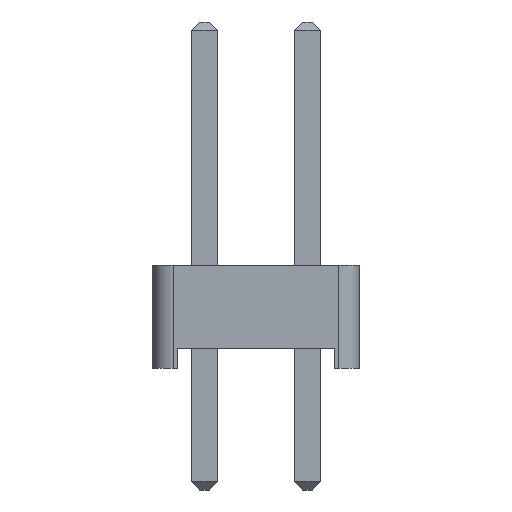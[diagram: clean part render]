
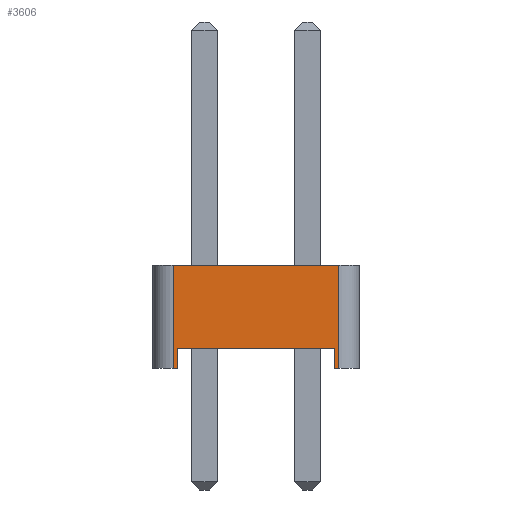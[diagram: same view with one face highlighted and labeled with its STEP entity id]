
A CAD part, left-side view. The second image highlights one B-rep face of the part: STEP entity #3606.
In plain terms, the highlighted planar face has unit normal (-1, 0, 0).
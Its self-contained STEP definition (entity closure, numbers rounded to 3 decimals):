
#3346 = VERTEX_POINT('',#3347);
#3347 = CARTESIAN_POINT('',(-1.27,2.04,0.));
#3355 = PLANE('',#3356);
#3356 = AXIS2_PLACEMENT_3D('',#3357,#3358,#3359);
#3357 = CARTESIAN_POINT('',(0.,0.,0.));
#3358 = DIRECTION('',(-0.,-0.,-1.));
#3359 = DIRECTION('',(-1.,0.,0.));
#3371 = CYLINDRICAL_SURFACE('',#3372,0.5);
#3372 = AXIS2_PLACEMENT_3D('',#3373,#3374,#3375);
#3373 = CARTESIAN_POINT('',(-0.77,2.04,0.));
#3374 = DIRECTION('',(0.,0.,1.));
#3375 = DIRECTION('',(0.,1.,0.));
#3473 = VERTEX_POINT('',#3474);
#3474 = CARTESIAN_POINT('',(-1.27,1.94,0.));
#3488 = PLANE('',#3489);
#3489 = AXIS2_PLACEMENT_3D('',#3490,#3491,#3492);
#3490 = CARTESIAN_POINT('',(1.27,1.94,0.));
#3491 = DIRECTION('',(0.,-1.,0.));
#3492 = DIRECTION('',(-1.,0.,0.));
#3500 = EDGE_CURVE('',#3473,#3346,#3501,.T.);
#3501 = SURFACE_CURVE('',#3502,(#3506,#3513),.PCURVE_S1.);
#3502 = LINE('',#3503,#3504);
#3503 = CARTESIAN_POINT('',(-1.27,-2.54,0.));
#3504 = VECTOR('',#3505,1.);
#3505 = DIRECTION('',(0.,1.,0.));
#3506 = PCURVE('',#3355,#3507);
#3507 = DEFINITIONAL_REPRESENTATION('',(#3508),#3512);
#3508 = LINE('',#3509,#3510);
#3509 = CARTESIAN_POINT('',(1.27,-2.54));
#3510 = VECTOR('',#3511,1.);
#3511 = DIRECTION('',(0.,1.));
#3512 = ( GEOMETRIC_REPRESENTATION_CONTEXT(2) 
PARAMETRIC_REPRESENTATION_CONTEXT() REPRESENTATION_CONTEXT('2D SPACE',''
  ) );
#3513 = PCURVE('',#3514,#3519);
#3514 = PLANE('',#3515);
#3515 = AXIS2_PLACEMENT_3D('',#3516,#3517,#3518);
#3516 = CARTESIAN_POINT('',(-1.27,-2.54,0.));
#3517 = DIRECTION('',(-1.,0.,0.));
#3518 = DIRECTION('',(0.,1.,0.));
#3519 = DEFINITIONAL_REPRESENTATION('',(#3520),#3524);
#3520 = LINE('',#3521,#3522);
#3521 = CARTESIAN_POINT('',(0.,0.));
#3522 = VECTOR('',#3523,1.);
#3523 = DIRECTION('',(1.,0.));
#3524 = ( GEOMETRIC_REPRESENTATION_CONTEXT(2) 
PARAMETRIC_REPRESENTATION_CONTEXT() REPRESENTATION_CONTEXT('2D SPACE',''
  ) );
#3530 = EDGE_CURVE('',#3346,#3531,#3533,.T.);
#3531 = VERTEX_POINT('',#3532);
#3532 = CARTESIAN_POINT('',(-1.27,2.04,2.54));
#3533 = SURFACE_CURVE('',#3534,(#3538,#3545),.PCURVE_S1.);
#3534 = LINE('',#3535,#3536);
#3535 = CARTESIAN_POINT('',(-1.27,2.04,0.));
#3536 = VECTOR('',#3537,1.);
#3537 = DIRECTION('',(0.,0.,1.));
#3538 = PCURVE('',#3371,#3539);
#3539 = DEFINITIONAL_REPRESENTATION('',(#3540),#3544);
#3540 = LINE('',#3541,#3542);
#3541 = CARTESIAN_POINT('',(1.571,0.));
#3542 = VECTOR('',#3543,1.);
#3543 = DIRECTION('',(0.,1.));
#3544 = ( GEOMETRIC_REPRESENTATION_CONTEXT(2) 
PARAMETRIC_REPRESENTATION_CONTEXT() REPRESENTATION_CONTEXT('2D SPACE',''
  ) );
#3545 = PCURVE('',#3514,#3546);
#3546 = DEFINITIONAL_REPRESENTATION('',(#3547),#3551);
#3547 = LINE('',#3548,#3549);
#3548 = CARTESIAN_POINT('',(4.58,0.));
#3549 = VECTOR('',#3550,1.);
#3550 = DIRECTION('',(0.,-1.));
#3551 = ( GEOMETRIC_REPRESENTATION_CONTEXT(2) 
PARAMETRIC_REPRESENTATION_CONTEXT() REPRESENTATION_CONTEXT('2D SPACE',''
  ) );
#3570 = PLANE('',#3571);
#3571 = AXIS2_PLACEMENT_3D('',#3572,#3573,#3574);
#3572 = CARTESIAN_POINT('',(0.,0.,2.54));
#3573 = DIRECTION('',(-0.,-0.,-1.));
#3574 = DIRECTION('',(-1.,0.,0.));
#3606 = ADVANCED_FACE('',(#3607),#3514,.T.);
#3607 = FACE_BOUND('',#3608,.T.);
#3608 = EDGE_LOOP('',(#3609,#3639,#3667,#3688,#3689,#3690,#3713,#3741));
#3609 = ORIENTED_EDGE('',*,*,#3610,.F.);
#3610 = EDGE_CURVE('',#3611,#3613,#3615,.T.);
#3611 = VERTEX_POINT('',#3612);
#3612 = CARTESIAN_POINT('',(-1.27,-2.04,0.));
#3613 = VERTEX_POINT('',#3614);
#3614 = CARTESIAN_POINT('',(-1.27,-1.94,0.));
#3615 = SURFACE_CURVE('',#3616,(#3620,#3627),.PCURVE_S1.);
#3616 = LINE('',#3617,#3618);
#3617 = CARTESIAN_POINT('',(-1.27,-2.54,0.));
#3618 = VECTOR('',#3619,1.);
#3619 = DIRECTION('',(0.,1.,0.));
#3620 = PCURVE('',#3514,#3621);
#3621 = DEFINITIONAL_REPRESENTATION('',(#3622),#3626);
#3622 = LINE('',#3623,#3624);
#3623 = CARTESIAN_POINT('',(0.,0.));
#3624 = VECTOR('',#3625,1.);
#3625 = DIRECTION('',(1.,0.));
#3626 = ( GEOMETRIC_REPRESENTATION_CONTEXT(2) 
PARAMETRIC_REPRESENTATION_CONTEXT() REPRESENTATION_CONTEXT('2D SPACE',''
  ) );
#3627 = PCURVE('',#3628,#3633);
#3628 = PLANE('',#3629);
#3629 = AXIS2_PLACEMENT_3D('',#3630,#3631,#3632);
#3630 = CARTESIAN_POINT('',(0.,0.,0.));
#3631 = DIRECTION('',(-0.,-0.,-1.));
#3632 = DIRECTION('',(-1.,0.,0.));
#3633 = DEFINITIONAL_REPRESENTATION('',(#3634),#3638);
#3634 = LINE('',#3635,#3636);
#3635 = CARTESIAN_POINT('',(1.27,-2.54));
#3636 = VECTOR('',#3637,1.);
#3637 = DIRECTION('',(0.,1.));
#3638 = ( GEOMETRIC_REPRESENTATION_CONTEXT(2) 
PARAMETRIC_REPRESENTATION_CONTEXT() REPRESENTATION_CONTEXT('2D SPACE',''
  ) );
#3639 = ORIENTED_EDGE('',*,*,#3640,.T.);
#3640 = EDGE_CURVE('',#3611,#3641,#3643,.T.);
#3641 = VERTEX_POINT('',#3642);
#3642 = CARTESIAN_POINT('',(-1.27,-2.04,2.54));
#3643 = SURFACE_CURVE('',#3644,(#3648,#3655),.PCURVE_S1.);
#3644 = LINE('',#3645,#3646);
#3645 = CARTESIAN_POINT('',(-1.27,-2.04,0.));
#3646 = VECTOR('',#3647,1.);
#3647 = DIRECTION('',(0.,0.,1.));
#3648 = PCURVE('',#3514,#3649);
#3649 = DEFINITIONAL_REPRESENTATION('',(#3650),#3654);
#3650 = LINE('',#3651,#3652);
#3651 = CARTESIAN_POINT('',(0.5,0.));
#3652 = VECTOR('',#3653,1.);
#3653 = DIRECTION('',(0.,-1.));
#3654 = ( GEOMETRIC_REPRESENTATION_CONTEXT(2) 
PARAMETRIC_REPRESENTATION_CONTEXT() REPRESENTATION_CONTEXT('2D SPACE',''
  ) );
#3655 = PCURVE('',#3656,#3661);
#3656 = CYLINDRICAL_SURFACE('',#3657,0.5);
#3657 = AXIS2_PLACEMENT_3D('',#3658,#3659,#3660);
#3658 = CARTESIAN_POINT('',(-0.77,-2.04,0.));
#3659 = DIRECTION('',(0.,0.,1.));
#3660 = DIRECTION('',(0.,-1.,0.));
#3661 = DEFINITIONAL_REPRESENTATION('',(#3662),#3666);
#3662 = LINE('',#3663,#3664);
#3663 = CARTESIAN_POINT('',(-1.571,0.));
#3664 = VECTOR('',#3665,1.);
#3665 = DIRECTION('',(-0.,1.));
#3666 = ( GEOMETRIC_REPRESENTATION_CONTEXT(2) 
PARAMETRIC_REPRESENTATION_CONTEXT() REPRESENTATION_CONTEXT('2D SPACE',''
  ) );
#3667 = ORIENTED_EDGE('',*,*,#3668,.T.);
#3668 = EDGE_CURVE('',#3641,#3531,#3669,.T.);
#3669 = SURFACE_CURVE('',#3670,(#3674,#3681),.PCURVE_S1.);
#3670 = LINE('',#3671,#3672);
#3671 = CARTESIAN_POINT('',(-1.27,-2.54,2.54));
#3672 = VECTOR('',#3673,1.);
#3673 = DIRECTION('',(0.,1.,0.));
#3674 = PCURVE('',#3514,#3675);
#3675 = DEFINITIONAL_REPRESENTATION('',(#3676),#3680);
#3676 = LINE('',#3677,#3678);
#3677 = CARTESIAN_POINT('',(0.,-2.54));
#3678 = VECTOR('',#3679,1.);
#3679 = DIRECTION('',(1.,0.));
#3680 = ( GEOMETRIC_REPRESENTATION_CONTEXT(2) 
PARAMETRIC_REPRESENTATION_CONTEXT() REPRESENTATION_CONTEXT('2D SPACE',''
  ) );
#3681 = PCURVE('',#3570,#3682);
#3682 = DEFINITIONAL_REPRESENTATION('',(#3683),#3687);
#3683 = LINE('',#3684,#3685);
#3684 = CARTESIAN_POINT('',(1.27,-2.54));
#3685 = VECTOR('',#3686,1.);
#3686 = DIRECTION('',(0.,1.));
#3687 = ( GEOMETRIC_REPRESENTATION_CONTEXT(2) 
PARAMETRIC_REPRESENTATION_CONTEXT() REPRESENTATION_CONTEXT('2D SPACE',''
  ) );
#3688 = ORIENTED_EDGE('',*,*,#3530,.F.);
#3689 = ORIENTED_EDGE('',*,*,#3500,.F.);
#3690 = ORIENTED_EDGE('',*,*,#3691,.T.);
#3691 = EDGE_CURVE('',#3473,#3692,#3694,.T.);
#3692 = VERTEX_POINT('',#3693);
#3693 = CARTESIAN_POINT('',(-1.27,1.94,0.5));
#3694 = SURFACE_CURVE('',#3695,(#3699,#3706),.PCURVE_S1.);
#3695 = LINE('',#3696,#3697);
#3696 = CARTESIAN_POINT('',(-1.27,1.94,0.));
#3697 = VECTOR('',#3698,1.);
#3698 = DIRECTION('',(0.,0.,1.));
#3699 = PCURVE('',#3514,#3700);
#3700 = DEFINITIONAL_REPRESENTATION('',(#3701),#3705);
#3701 = LINE('',#3702,#3703);
#3702 = CARTESIAN_POINT('',(4.48,0.));
#3703 = VECTOR('',#3704,1.);
#3704 = DIRECTION('',(0.,-1.));
#3705 = ( GEOMETRIC_REPRESENTATION_CONTEXT(2) 
PARAMETRIC_REPRESENTATION_CONTEXT() REPRESENTATION_CONTEXT('2D SPACE',''
  ) );
#3706 = PCURVE('',#3488,#3707);
#3707 = DEFINITIONAL_REPRESENTATION('',(#3708),#3712);
#3708 = LINE('',#3709,#3710);
#3709 = CARTESIAN_POINT('',(2.54,0.));
#3710 = VECTOR('',#3711,1.);
#3711 = DIRECTION('',(0.,-1.));
#3712 = ( GEOMETRIC_REPRESENTATION_CONTEXT(2) 
PARAMETRIC_REPRESENTATION_CONTEXT() REPRESENTATION_CONTEXT('2D SPACE',''
  ) );
#3713 = ORIENTED_EDGE('',*,*,#3714,.T.);
#3714 = EDGE_CURVE('',#3692,#3715,#3717,.T.);
#3715 = VERTEX_POINT('',#3716);
#3716 = CARTESIAN_POINT('',(-1.27,-1.94,0.5));
#3717 = SURFACE_CURVE('',#3718,(#3722,#3729),.PCURVE_S1.);
#3718 = LINE('',#3719,#3720);
#3719 = CARTESIAN_POINT('',(-1.27,1.94,0.5));
#3720 = VECTOR('',#3721,1.);
#3721 = DIRECTION('',(0.,-1.,0.));
#3722 = PCURVE('',#3514,#3723);
#3723 = DEFINITIONAL_REPRESENTATION('',(#3724),#3728);
#3724 = LINE('',#3725,#3726);
#3725 = CARTESIAN_POINT('',(4.48,-0.5));
#3726 = VECTOR('',#3727,1.);
#3727 = DIRECTION('',(-1.,0.));
#3728 = ( GEOMETRIC_REPRESENTATION_CONTEXT(2) 
PARAMETRIC_REPRESENTATION_CONTEXT() REPRESENTATION_CONTEXT('2D SPACE',''
  ) );
#3729 = PCURVE('',#3730,#3735);
#3730 = PLANE('',#3731);
#3731 = AXIS2_PLACEMENT_3D('',#3732,#3733,#3734);
#3732 = CARTESIAN_POINT('',(0.,0.,0.5));
#3733 = DIRECTION('',(0.,0.,1.));
#3734 = DIRECTION('',(1.,0.,0.));
#3735 = DEFINITIONAL_REPRESENTATION('',(#3736),#3740);
#3736 = LINE('',#3737,#3738);
#3737 = CARTESIAN_POINT('',(-1.27,1.94));
#3738 = VECTOR('',#3739,1.);
#3739 = DIRECTION('',(0.,-1.));
#3740 = ( GEOMETRIC_REPRESENTATION_CONTEXT(2) 
PARAMETRIC_REPRESENTATION_CONTEXT() REPRESENTATION_CONTEXT('2D SPACE',''
  ) );
#3741 = ORIENTED_EDGE('',*,*,#3742,.F.);
#3742 = EDGE_CURVE('',#3613,#3715,#3743,.T.);
#3743 = SURFACE_CURVE('',#3744,(#3748,#3755),.PCURVE_S1.);
#3744 = LINE('',#3745,#3746);
#3745 = CARTESIAN_POINT('',(-1.27,-1.94,0.));
#3746 = VECTOR('',#3747,1.);
#3747 = DIRECTION('',(0.,0.,1.));
#3748 = PCURVE('',#3514,#3749);
#3749 = DEFINITIONAL_REPRESENTATION('',(#3750),#3754);
#3750 = LINE('',#3751,#3752);
#3751 = CARTESIAN_POINT('',(0.6,0.));
#3752 = VECTOR('',#3753,1.);
#3753 = DIRECTION('',(0.,-1.));
#3754 = ( GEOMETRIC_REPRESENTATION_CONTEXT(2) 
PARAMETRIC_REPRESENTATION_CONTEXT() REPRESENTATION_CONTEXT('2D SPACE',''
  ) );
#3755 = PCURVE('',#3756,#3761);
#3756 = PLANE('',#3757);
#3757 = AXIS2_PLACEMENT_3D('',#3758,#3759,#3760);
#3758 = CARTESIAN_POINT('',(-1.27,-1.94,0.));
#3759 = DIRECTION('',(0.,1.,0.));
#3760 = DIRECTION('',(1.,0.,0.));
#3761 = DEFINITIONAL_REPRESENTATION('',(#3762),#3766);
#3762 = LINE('',#3763,#3764);
#3763 = CARTESIAN_POINT('',(0.,0.));
#3764 = VECTOR('',#3765,1.);
#3765 = DIRECTION('',(0.,-1.));
#3766 = ( GEOMETRIC_REPRESENTATION_CONTEXT(2) 
PARAMETRIC_REPRESENTATION_CONTEXT() REPRESENTATION_CONTEXT('2D SPACE',''
  ) );
